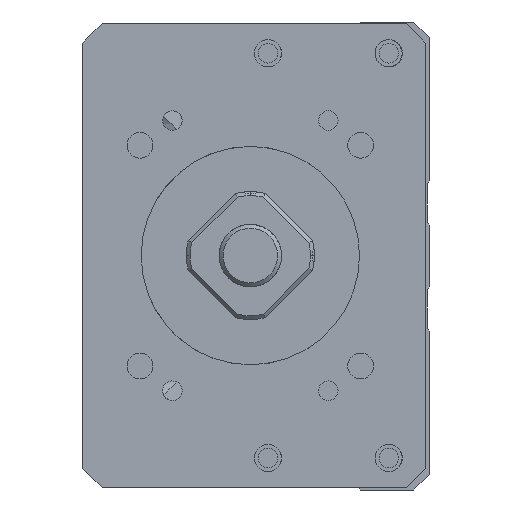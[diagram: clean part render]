
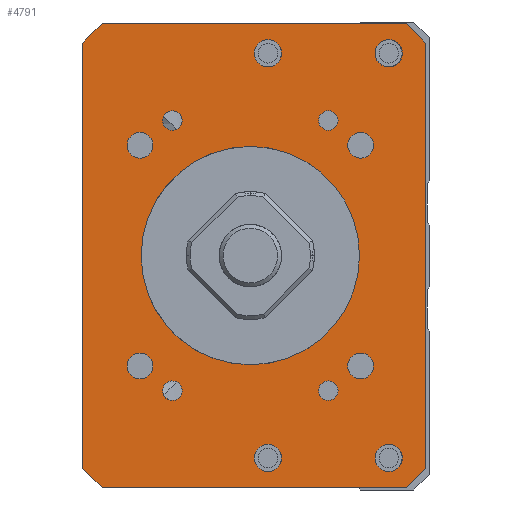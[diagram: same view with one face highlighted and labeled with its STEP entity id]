
A CAD part, left-side view. The second image highlights one B-rep face of the part: STEP entity #4791.
In plain terms, the highlighted planar face has unit normal (-1, 0, 0).
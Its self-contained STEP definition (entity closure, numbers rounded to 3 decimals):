
#3896=FACE_BOUND('',#6296,.T.);
#3897=FACE_BOUND('',#6297,.T.);
#3898=FACE_BOUND('',#6298,.T.);
#3899=FACE_BOUND('',#6299,.T.);
#3900=FACE_BOUND('',#6300,.T.);
#3901=FACE_BOUND('',#6301,.T.);
#3902=FACE_BOUND('',#6302,.T.);
#3903=FACE_BOUND('',#6303,.T.);
#3904=FACE_BOUND('',#6304,.T.);
#3905=FACE_BOUND('',#6305,.T.);
#3906=FACE_BOUND('',#6306,.T.);
#3907=FACE_BOUND('',#6307,.T.);
#3908=FACE_BOUND('',#6308,.T.);
#3909=FACE_BOUND('',#6309,.T.);
#4251=CIRCLE('',#13844,14.);
#4260=CIRCLE('',#13855,1.65);
#4261=CIRCLE('',#13856,1.65);
#4262=CIRCLE('',#13857,1.65);
#4263=CIRCLE('',#13858,1.65);
#4264=CIRCLE('',#13859,1.25);
#4265=CIRCLE('',#13860,1.75);
#4266=CIRCLE('',#13861,1.25);
#4267=CIRCLE('',#13862,1.75);
#4268=CIRCLE('',#13863,1.25);
#4269=CIRCLE('',#13864,1.75);
#4270=CIRCLE('',#13865,1.75);
#4271=CIRCLE('',#13866,1.25);
#4791=ADVANCED_FACE('',(#3896,#3897,#3898,#3899,#3900,#3901,#3902,#3903,
#3904,#3905,#3906,#3907,#3908,#3909),#5243,.F.);
#5243=PLANE('',#13867);
#6296=EDGE_LOOP('',(#8546));
#6297=EDGE_LOOP('',(#8547));
#6298=EDGE_LOOP('',(#8548));
#6299=EDGE_LOOP('',(#8549));
#6300=EDGE_LOOP('',(#8550));
#6301=EDGE_LOOP('',(#8551));
#6302=EDGE_LOOP('',(#8552));
#6303=EDGE_LOOP('',(#8553));
#6304=EDGE_LOOP('',(#8554));
#6305=EDGE_LOOP('',(#8555,#8556,#8557,#8558,#8559,#8560,#8561,#8562));
#6306=EDGE_LOOP('',(#8563));
#6307=EDGE_LOOP('',(#8564));
#6308=EDGE_LOOP('',(#8565));
#6309=EDGE_LOOP('',(#8566));
#8546=ORIENTED_EDGE('',*,*,#11191,.F.);
#8547=ORIENTED_EDGE('',*,*,#11192,.F.);
#8548=ORIENTED_EDGE('',*,*,#11193,.F.);
#8549=ORIENTED_EDGE('',*,*,#11194,.F.);
#8550=ORIENTED_EDGE('',*,*,#11195,.F.);
#8551=ORIENTED_EDGE('',*,*,#11196,.T.);
#8552=ORIENTED_EDGE('',*,*,#11197,.F.);
#8553=ORIENTED_EDGE('',*,*,#11198,.F.);
#8554=ORIENTED_EDGE('',*,*,#11199,.F.);
#8555=ORIENTED_EDGE('',*,*,#11188,.T.);
#8556=ORIENTED_EDGE('',*,*,#11200,.T.);
#8557=ORIENTED_EDGE('',*,*,#11201,.F.);
#8558=ORIENTED_EDGE('',*,*,#11202,.T.);
#8559=ORIENTED_EDGE('',*,*,#11203,.F.);
#8560=ORIENTED_EDGE('',*,*,#11204,.T.);
#8561=ORIENTED_EDGE('',*,*,#11205,.T.);
#8562=ORIENTED_EDGE('',*,*,#11206,.T.);
#8563=ORIENTED_EDGE('',*,*,#11207,.F.);
#8564=ORIENTED_EDGE('',*,*,#11208,.F.);
#8565=ORIENTED_EDGE('',*,*,#11209,.F.);
#8566=ORIENTED_EDGE('',*,*,#11168,.F.);
#9945=VERTEX_POINT('',#19527);
#9965=VERTEX_POINT('',#19587);
#9966=VERTEX_POINT('',#19589);
#9968=VERTEX_POINT('',#19595);
#9969=VERTEX_POINT('',#19597);
#9970=VERTEX_POINT('',#19599);
#9971=VERTEX_POINT('',#19601);
#9972=VERTEX_POINT('',#19603);
#9973=VERTEX_POINT('',#19605);
#9974=VERTEX_POINT('',#19607);
#9975=VERTEX_POINT('',#19609);
#9976=VERTEX_POINT('',#19611);
#9977=VERTEX_POINT('',#19613);
#9978=VERTEX_POINT('',#19615);
#9979=VERTEX_POINT('',#19617);
#9980=VERTEX_POINT('',#19619);
#9981=VERTEX_POINT('',#19621);
#9982=VERTEX_POINT('',#19623);
#9983=VERTEX_POINT('',#19626);
#9984=VERTEX_POINT('',#19628);
#9985=VERTEX_POINT('',#19630);
#11168=EDGE_CURVE('',#9945,#9945,#4251,.T.);
#11188=EDGE_CURVE('',#9966,#9965,#12222,.T.);
#11191=EDGE_CURVE('',#9968,#9968,#4260,.T.);
#11192=EDGE_CURVE('',#9969,#9969,#4261,.T.);
#11193=EDGE_CURVE('',#9970,#9970,#4262,.T.);
#11194=EDGE_CURVE('',#9971,#9971,#4263,.T.);
#11195=EDGE_CURVE('',#9972,#9972,#4264,.T.);
#11196=EDGE_CURVE('',#9973,#9973,#4265,.T.);
#11197=EDGE_CURVE('',#9974,#9974,#4266,.T.);
#11198=EDGE_CURVE('',#9975,#9975,#4267,.T.);
#11199=EDGE_CURVE('',#9976,#9976,#4268,.T.);
#11200=EDGE_CURVE('',#9965,#9977,#12224,.T.);
#11201=EDGE_CURVE('',#9978,#9977,#12225,.T.);
#11202=EDGE_CURVE('',#9978,#9979,#12226,.T.);
#11203=EDGE_CURVE('',#9980,#9979,#12227,.T.);
#11204=EDGE_CURVE('',#9980,#9981,#12228,.T.);
#11205=EDGE_CURVE('',#9981,#9982,#12229,.T.);
#11206=EDGE_CURVE('',#9982,#9966,#12230,.T.);
#11207=EDGE_CURVE('',#9983,#9983,#4269,.T.);
#11208=EDGE_CURVE('',#9984,#9984,#4270,.T.);
#11209=EDGE_CURVE('',#9985,#9985,#4271,.T.);
#12222=LINE('',#19588,#13043);
#12224=LINE('',#19612,#13045);
#12225=LINE('',#19614,#13046);
#12226=LINE('',#19616,#13047);
#12227=LINE('',#19618,#13048);
#12228=LINE('',#19620,#13049);
#12229=LINE('',#19622,#13050);
#12230=LINE('',#19624,#13051);
#13043=VECTOR('',#16170,1.);
#13045=VECTOR('',#16194,1.);
#13046=VECTOR('',#16195,1.);
#13047=VECTOR('',#16196,1.);
#13048=VECTOR('',#16197,1.);
#13049=VECTOR('',#16198,1.);
#13050=VECTOR('',#16199,1.);
#13051=VECTOR('',#16200,1.);
#13844=AXIS2_PLACEMENT_3D('',#19526,#16144,#16145);
#13855=AXIS2_PLACEMENT_3D('',#19594,#16176,#16177);
#13856=AXIS2_PLACEMENT_3D('',#19596,#16178,#16179);
#13857=AXIS2_PLACEMENT_3D('',#19598,#16180,#16181);
#13858=AXIS2_PLACEMENT_3D('',#19600,#16182,#16183);
#13859=AXIS2_PLACEMENT_3D('',#19602,#16184,#16185);
#13860=AXIS2_PLACEMENT_3D('',#19604,#16186,#16187);
#13861=AXIS2_PLACEMENT_3D('',#19606,#16188,#16189);
#13862=AXIS2_PLACEMENT_3D('',#19608,#16190,#16191);
#13863=AXIS2_PLACEMENT_3D('',#19610,#16192,#16193);
#13864=AXIS2_PLACEMENT_3D('',#19625,#16201,#16202);
#13865=AXIS2_PLACEMENT_3D('',#19627,#16203,#16204);
#13866=AXIS2_PLACEMENT_3D('',#19629,#16205,#16206);
#13867=AXIS2_PLACEMENT_3D('',#19631,#16207,#16208);
#16144=DIRECTION('',(-1.,0.,0.));
#16145=DIRECTION('',(0.,1.,0.));
#16170=DIRECTION('',(0.,0.,-1.));
#16176=DIRECTION('',(-1.,0.,0.));
#16177=DIRECTION('',(0.,0.,1.));
#16178=DIRECTION('',(-1.,0.,0.));
#16179=DIRECTION('',(0.,0.,1.));
#16180=DIRECTION('',(-1.,0.,0.));
#16181=DIRECTION('',(0.,0.,1.));
#16182=DIRECTION('',(-1.,0.,0.));
#16183=DIRECTION('',(0.,0.,1.));
#16184=DIRECTION('',(-1.,0.,0.));
#16185=DIRECTION('',(0.,1.,0.));
#16186=DIRECTION('',(1.,0.,0.));
#16187=DIRECTION('',(0.,0.,1.));
#16188=DIRECTION('',(-1.,0.,0.));
#16189=DIRECTION('',(0.,1.,0.));
#16190=DIRECTION('',(-1.,0.,0.));
#16191=DIRECTION('',(0.,0.,1.));
#16192=DIRECTION('',(-1.,0.,0.));
#16193=DIRECTION('',(0.,1.,0.));
#16194=DIRECTION('',(0.,-0.707,-0.707));
#16195=DIRECTION('',(0.,1.,0.));
#16196=DIRECTION('',(0.,-0.707,0.707));
#16197=DIRECTION('',(0.,0.,-1.));
#16198=DIRECTION('',(0.,0.707,0.707));
#16199=DIRECTION('',(0.,1.,0.));
#16200=DIRECTION('',(0.,0.707,-0.707));
#16201=DIRECTION('',(-1.,0.,0.));
#16202=DIRECTION('',(0.,0.,1.));
#16203=DIRECTION('',(-1.,0.,0.));
#16204=DIRECTION('',(0.,0.,1.));
#16205=DIRECTION('',(-1.,0.,0.));
#16206=DIRECTION('',(0.,1.,0.));
#16207=DIRECTION('',(1.,0.,0.));
#16208=DIRECTION('',(0.,1.,0.));
#19526=CARTESIAN_POINT('',(-211.,0.,-400.));
#19527=CARTESIAN_POINT('',(-211.,14.,-400.));
#19587=CARTESIAN_POINT('',(-211.,21.499,-427.25));
#19588=CARTESIAN_POINT('',(-211.,21.499,-370.25));
#19589=CARTESIAN_POINT('',(-211.,21.499,-372.75));
#19594=CARTESIAN_POINT('',(-211.,14.142,-385.858));
#19595=CARTESIAN_POINT('',(-211.,14.142,-384.208));
#19596=CARTESIAN_POINT('',(-211.,-14.142,-385.858));
#19597=CARTESIAN_POINT('',(-211.,-14.142,-384.208));
#19598=CARTESIAN_POINT('',(-211.,14.142,-414.142));
#19599=CARTESIAN_POINT('',(-211.,14.142,-412.492));
#19600=CARTESIAN_POINT('',(-211.,-14.142,-414.142));
#19601=CARTESIAN_POINT('',(-211.,-14.142,-412.492));
#19602=CARTESIAN_POINT('',(-211.,-10.,-417.321));
#19603=CARTESIAN_POINT('',(-211.,-8.75,-417.321));
#19604=CARTESIAN_POINT('',(-211.,-2.25,-425.936));
#19605=CARTESIAN_POINT('',(-211.,-2.25,-424.186));
#19606=CARTESIAN_POINT('',(-211.,10.,-382.679));
#19607=CARTESIAN_POINT('',(-211.,11.25,-382.679));
#19608=CARTESIAN_POINT('',(-211.,-2.25,-374.064));
#19609=CARTESIAN_POINT('',(-211.,-2.25,-372.314));
#19610=CARTESIAN_POINT('',(-211.,10.,-417.321));
#19611=CARTESIAN_POINT('',(-211.,11.25,-417.321));
#19612=CARTESIAN_POINT('',(-211.,18.999,-429.75));
#19613=CARTESIAN_POINT('',(-211.,18.999,-429.75));
#19614=CARTESIAN_POINT('',(-211.,-22.501,-429.75));
#19615=CARTESIAN_POINT('',(-211.,-20.001,-429.75));
#19616=CARTESIAN_POINT('',(-211.,-22.501,-427.25));
#19617=CARTESIAN_POINT('',(-211.,-22.501,-427.25));
#19618=CARTESIAN_POINT('',(-211.,-22.501,-370.25));
#19619=CARTESIAN_POINT('',(-211.,-22.501,-372.75));
#19620=CARTESIAN_POINT('',(-211.,-22.501,-372.75));
#19621=CARTESIAN_POINT('',(-211.,-20.001,-370.25));
#19622=CARTESIAN_POINT('',(-211.,-22.501,-370.25));
#19623=CARTESIAN_POINT('',(-211.,18.999,-370.25));
#19624=CARTESIAN_POINT('',(-211.,18.999,-370.25));
#19625=CARTESIAN_POINT('',(-211.,-17.75,-374.064));
#19626=CARTESIAN_POINT('',(-211.,-17.75,-372.314));
#19627=CARTESIAN_POINT('',(-211.,-17.75,-425.936));
#19628=CARTESIAN_POINT('',(-211.,-17.75,-424.186));
#19629=CARTESIAN_POINT('',(-211.,-10.,-382.679));
#19630=CARTESIAN_POINT('',(-211.,-8.75,-382.679));
#19631=CARTESIAN_POINT('',(-211.,-22.501,-370.25));
